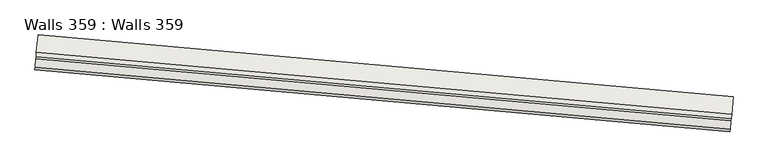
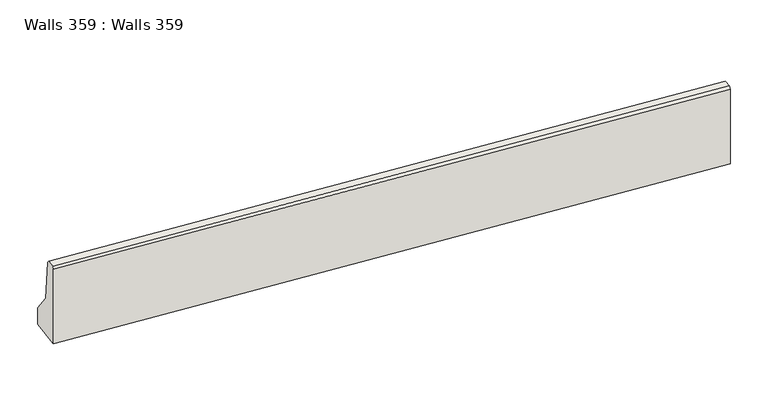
"""IFC4 building model written with IfcOpenShell, lengths in millimetres: wall geometry, Walls 359 : Walls 359."""

from ifc_helpers import new_model, si_unit, frame, origin, place, context, project, spatial, polyline, outline, extrude, source, transform, mapped, element, save


def walls_359_walls_359_f75e9875(model_context):
    return source(origin(), model_context, "Body", "SweptSolid", [
        extrude(outline(polyline([(636680.0, 400.0), (636930.0, 199.9999999), (637435.0, 149.9999999), (637460.0, 124.9999999), (637460.0, 24.9999999), (637435.0, 0.0), (636460.0, 0.0), (636460.0, 400.0), (636680.0, 400.0)])), frame((-714511.3320349, -415425.5650188, 0.0), z_axis=(-0.9960550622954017, 0.08873732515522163, 0.0), x_axis=(0.0, 0.0, 1.0)), (0.0, 0.0, 1.0), 7999.9999999),
    ])


if __name__ == "__main__":
    model = new_model("IFC4")
    model_context = context("Model", 3, world=origin())
    ifc_project = project(units=[si_unit("LENGTHUNIT", "METRE", prefix="MILLI")], contexts=[model_context])
    site = spatial("IfcSite", under=ifc_project)
    building = spatial("IfcBuilding", under=site)
    placement = place(None, origin())
    walls_359_walls_359_shape = walls_359_walls_359_f75e9875(model_context)
    element("IfcWall", 1, ObjectType="Walls 359 : Walls 359", at=placement, inside=building, context=model_context, shape_type="MappedRepresentation", body=[
        mapped(walls_359_walls_359_shape, transform((0.0, 0.0, 0.0), x_axis=(1.0, 0.0, 0.0), y_axis=(0.0, 1.0, 0.0), z_axis=(0.0, 0.0, 1.0))),
    ])
    save(model, "model.ifc")
